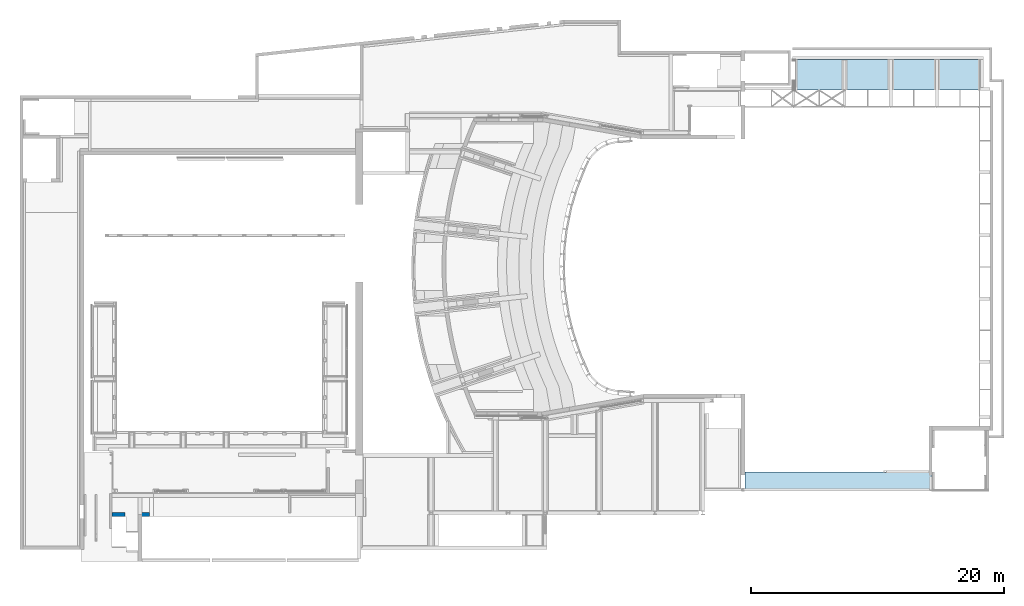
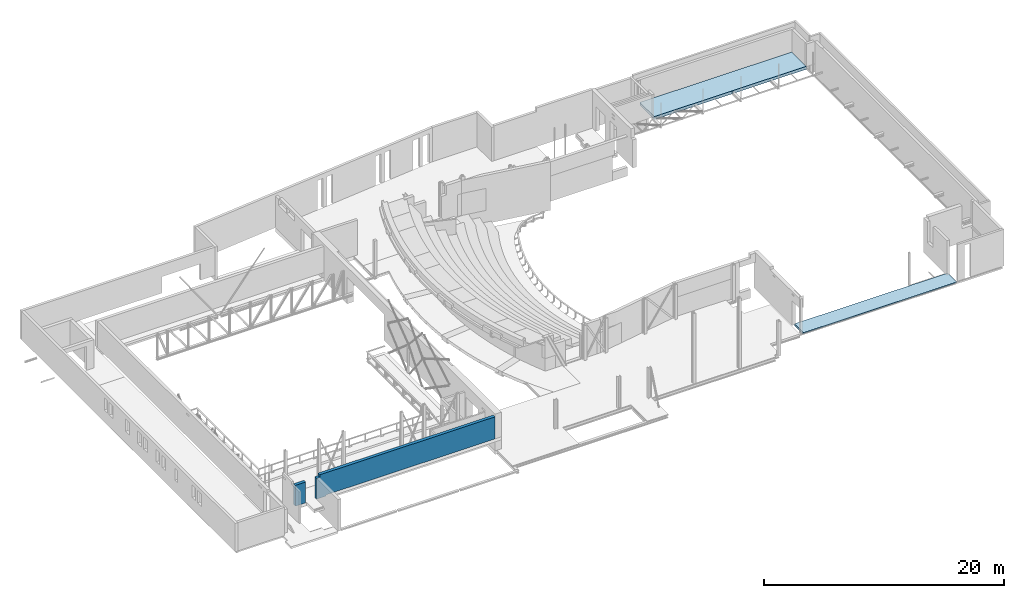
# One storey, part 64 of 68: 2 slabs, 1 wall.
"""IFC2X3 building model written with IfcOpenShell, lengths in millimetres."""

from ifc_helpers import new_model, entity, si_unit, converted_unit, derived_unit, direction, frame, origin, place, context, subcontext, project, spatial, faceted_brep, material, material_list, layer, layer_set, type_object, element, save


model = new_model("IFC2X3")

# Units and contexts
model_context = context("Model", 3, precision=0.01, world=origin(), true_north=direction((6.12303176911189e-17, 1.0)))
body_context = subcontext(model_context, "Body", "Model", "MODEL_VIEW")
ifc_project = project(units=[si_unit("LENGTHUNIT", "METRE", prefix="MILLI"), si_unit("AREAUNIT", "SQUARE_METRE", prefix="MILLI"), si_unit("VOLUMEUNIT", "CUBIC_METRE"), converted_unit("PLANEANGLEUNIT", "DEGREE", entity("IfcRatioMeasure", 0.0174532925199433), si_unit("PLANEANGLEUNIT", "RADIAN"), dimensions=[0, 0, 0, 0, 0, 0, 0]), si_unit("MASSUNIT", "GRAM", prefix="KILO"), derived_unit("MASSDENSITYUNIT", [(si_unit("MASSUNIT", "GRAM", prefix="KILO"), 1), (si_unit("LENGTHUNIT", "METRE"), -3)]), derived_unit("MOMENTOFINERTIAUNIT", [(si_unit("LENGTHUNIT", "METRE"), 4)]), si_unit("TIMEUNIT", "SECOND"), si_unit("FREQUENCYUNIT", "HERTZ"), si_unit("THERMODYNAMICTEMPERATUREUNIT", "DEGREE_CELSIUS"), derived_unit("THERMALTRANSMITTANCEUNIT", [(si_unit("MASSUNIT", "GRAM", prefix="KILO"), 1), (si_unit("THERMODYNAMICTEMPERATUREUNIT", "KELVIN"), -1), (si_unit("TIMEUNIT", "SECOND"), -3)]), derived_unit("VOLUMETRICFLOWRATEUNIT", [(si_unit("LENGTHUNIT", "METRE"), 3), (si_unit("TIMEUNIT", "SECOND"), -1)]), si_unit("ELECTRICCURRENTUNIT", "AMPERE"), si_unit("ELECTRICVOLTAGEUNIT", "VOLT"), si_unit("POWERUNIT", "WATT"), si_unit("FORCEUNIT", "NEWTON", prefix="KILO"), si_unit("ILLUMINANCEUNIT", "LUX"), si_unit("LUMINOUSFLUXUNIT", "LUMEN"), si_unit("LUMINOUSINTENSITYUNIT", "CANDELA"), derived_unit("USERDEFINED", [(si_unit("MASSUNIT", "GRAM", prefix="KILO"), -1), (si_unit("LENGTHUNIT", "METRE"), -2), (si_unit("TIMEUNIT", "SECOND"), 3), (si_unit("LUMINOUSFLUXUNIT", "LUMEN"), 1)]), derived_unit("LINEARVELOCITYUNIT", [(si_unit("LENGTHUNIT", "METRE"), 1), (si_unit("TIMEUNIT", "SECOND"), -1)]), si_unit("PRESSUREUNIT", "PASCAL"), derived_unit("USERDEFINED", [(si_unit("LENGTHUNIT", "METRE"), -2), (si_unit("MASSUNIT", "GRAM", prefix="KILO"), 1), (si_unit("TIMEUNIT", "SECOND"), -2)]), derived_unit("LINEARFORCEUNIT", [(si_unit("MASSUNIT", "GRAM", prefix="KILO"), 1), (si_unit("LENGTHUNIT", "METRE"), 1), (si_unit("TIMEUNIT", "SECOND"), -2), (si_unit("LENGTHUNIT", "METRE"), -1)]), derived_unit("PLANARFORCEUNIT", [(si_unit("MASSUNIT", "GRAM", prefix="KILO"), 1), (si_unit("LENGTHUNIT", "METRE"), 1), (si_unit("TIMEUNIT", "SECOND"), -2), (si_unit("LENGTHUNIT", "METRE"), -2)])], contexts=[model_context])

# Site, building, storey
site_placement = place(None, origin())
site = spatial("IfcSite", under=ifc_project, at=site_placement, Name="Theater aan de Parade", CompositionType="ELEMENT")
building_placement = place(site_placement, origin())
building = spatial("IfcBuilding", under=site, at=building_placement, Name="Theater aan de Parade", CompositionType="ELEMENT")
storey_placement = place(building_placement, frame((0.0, 0.0, 8750.0)))
storey = spatial("IfcBuildingStorey", under=building, at=storey_placement, Name="02 tweede verdieping", CompositionType="ELEMENT", Elevation=8750.0)

# Slabs
ifc_material_1 = material(Name="00_PBT_MAT_beton t.p.g._C30/37")
ifc_material_2 = material(Name="00_PBT_MAT_staal")
ifc_material_list = material_list([ifc_material_1, ifc_material_2])
slab_type_1 = type_object("IfcSlabType", Name="Floor:28_PBT_FL_staalplaatbeton_d=300_C30/37", PredefinedType="FLOOR")
slab_1_placement = place(storey_placement, origin())
element("IfcSlab", 1, at=slab_1_placement, inside=storey, type_object=slab_type_1, material=ifc_material_list, Name="Floor:28_PBT_FL_staalplaatbeton_d=300_C30/37", ObjectType="Floor:28_PBT_FL_staalplaatbeton_d=300_C30/37", PredefinedType="FLOOR", context=body_context, shape_type="Brep", body=[
    faceted_brep([(79081.2707440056, 48822.0, 1010.0), (79101.2707440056, 48822.0, 1010.0), (79101.2707440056, 46411.8723406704, 1010.0), (78976.2707440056, 46411.8723406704, 1010.0), (75816.2707440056, 46411.8723406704, 1010.0), (75691.2707440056, 46411.8723406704, 1010.0), (75691.2707440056, 48807.0, 1010.0), (75451.2707440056, 48807.0, 1010.0), (75451.2707440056, 46411.8723406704, 1010.0), (75326.2707440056, 46411.8723406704, 1010.0), (71657.0, 46411.8723406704, 1010.0), (71657.0, 48822.0, 1010.0), (78976.2707440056, 48822.0, 1010.0), (82751.2707440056, 46411.8723406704, 1010.0), (82626.2707440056, 46411.8723406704, 1010.0), (79466.2707440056, 46411.8723406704, 1010.0), (79341.2707440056, 46411.8723406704, 1010.0), (79341.2707440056, 48822.0, 1010.0), (79361.2707440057, 48822.0, 1010.0), (79466.2707440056, 48822.0, 1010.0), (82626.2707440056, 48822.0, 1010.0), (82731.2707440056, 48822.0, 1010.0), (82751.2707440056, 48822.0, 1010.0), (83116.2707440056, 48822.0, 1010.0), (86305.1683175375, 48822.0, 1010.0), (86305.1683175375, 46411.8723406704, 1010.0), (83116.2707440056, 46411.8723406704, 1010.0), (82991.2707440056, 46411.8723406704, 1010.0), (82991.2707440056, 48822.0, 1010.0), (83011.2707440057, 48822.0, 1010.0), (71657.0, 46611.8723406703, 1310.0), (71657.0, 46411.8723406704, 1310.0), (86305.1683175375, 46411.8723406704, 1310.0), (86305.1683175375, 46611.8723406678, 1310.0), (86305.1683175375, 48822.0, 1310.0), (71657.0, 48822.0, 1310.0), (82875.0207440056, 46411.8723406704, 1043.0), (82876.5584334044, 46411.8723406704, 1039.28768939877), (82878.0961228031, 46411.8723406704, 1035.57537879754), (82879.6338122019, 46411.8723406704, 1031.86306819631), (82881.1715016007, 46411.8723406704, 1028.15075759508), (82885.0908740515, 46411.8723406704, 1026.52730036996), (82889.0102465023, 46411.8723406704, 1024.90384314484), (82892.515495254, 46411.8723406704, 1023.45192157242), (82896.0207440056, 46411.8723406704, 1022.0), (82991.2707440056, 46411.8723406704, 1022.0), (75451.2707440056, 46411.8723406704, 1022.0), (75546.5207440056, 46411.8723406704, 1022.0), (75550.2330546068, 46411.8723406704, 1023.53768939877), (75553.9453652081, 46411.8723406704, 1025.07537879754), (75557.6576758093, 46411.8723406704, 1026.61306819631), (75561.3699864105, 46411.8723406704, 1028.15075759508), (75562.9843506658, 46411.8723406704, 1032.04817767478), (75564.5987149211, 46411.8723406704, 1035.94559775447), (75566.0597294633, 46411.8723406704, 1039.47279887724), (75567.5207440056, 46411.8723406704, 1043.0), (75567.5207440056, 46411.8723406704, 1207.0), (75565.9830546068, 46411.8723406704, 1210.71231060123), (75564.4453652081, 46411.8723406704, 1214.42462120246), (75562.9076758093, 46411.8723406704, 1218.13693180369), (75561.3699864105, 46411.8723406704, 1221.84924240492), (75557.4725663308, 46411.8723406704, 1223.46360666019), (75553.5751462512, 46411.8723406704, 1225.07797091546), (75550.0479451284, 46411.8723406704, 1226.53898545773), (75546.5207440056, 46411.8723406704, 1228.0), (75451.2707440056, 46411.8723406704, 1228.0), (75451.2707440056, 46411.8723406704, 1240.0), (75691.2707440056, 46411.8723406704, 1240.0), (75691.2707440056, 46411.8723406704, 1228.0), (75596.0207440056, 46411.8723406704, 1228.0), (75592.3084334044, 46411.8723406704, 1226.46231060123), (75588.5961228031, 46411.8723406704, 1224.92462120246), (75584.8838122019, 46411.8723406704, 1223.38693180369), (75581.1715016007, 46411.8723406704, 1221.84924240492), (75579.5571373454, 46411.8723406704, 1217.95182232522), (75577.9427730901, 46411.8723406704, 1214.05440224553), (75576.4817585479, 46411.8723406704, 1210.52720112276), (75575.0207440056, 46411.8723406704, 1207.0), (75575.0207440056, 46411.8723406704, 1043.0), (75576.5584334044, 46411.8723406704, 1039.28768939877), (75578.0961228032, 46411.8723406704, 1035.57537879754), (75579.6338122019, 46411.8723406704, 1031.86306819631), (75581.1715016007, 46411.8723406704, 1028.15075759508), (75585.0689216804, 46411.8723406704, 1026.53639333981), (75588.9663417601, 46411.8723406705, 1024.92202908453), (75592.4935428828, 46411.8723406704, 1023.46101454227), (75596.0207440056, 46411.8723406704, 1022.0), (75691.2707440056, 46411.8723406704, 1022.0), (79101.2707440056, 46411.8723406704, 1022.0), (79196.5207440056, 46411.8723406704, 1022.0), (79200.2330546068, 46411.8723406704, 1023.53768939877), (79203.9453652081, 46411.8723406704, 1025.07537879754), (79207.6576758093, 46411.8723406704, 1026.61306819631), (79211.3699864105, 46411.8723406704, 1028.15075759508), (79212.9934436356, 46411.8723406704, 1032.0701300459), (79214.6169008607, 46411.8723406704, 1035.98950249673), (79216.0688224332, 46411.8723406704, 1039.49475124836), (79217.5207440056, 46411.8723406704, 1043.0), (79217.5207440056, 46411.8723406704, 1207.0), (79215.9830546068, 46411.8723406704, 1210.71231060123), (79214.445365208, 46411.8723406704, 1214.42462120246), (79212.9076758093, 46411.8723406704, 1218.13693180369), (79211.3699864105, 46411.8723406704, 1221.84924240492), (79207.4506139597, 46411.8723406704, 1223.47269963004), (79203.5312415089, 46411.8723406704, 1225.09615685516), (79200.0259927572, 46411.8723406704, 1226.54807842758), (79196.5207440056, 46411.8723406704, 1228.0), (79101.2707440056, 46411.8723406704, 1228.0), (79101.2707440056, 46411.8723406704, 1240.0), (79341.2707440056, 46411.8723406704, 1240.0), (79341.2707440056, 46411.8723406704, 1228.0), (79246.0207440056, 46411.8723406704, 1228.0), (79242.3084334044, 46411.8723406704, 1226.46231060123), (79238.5961228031, 46411.8723406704, 1224.92462120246), (79234.8838122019, 46411.8723406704, 1223.38693180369), (79231.1715016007, 46411.8723406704, 1221.84924240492), (79229.6338122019, 46411.8723406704, 1218.13693180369), (79228.0961228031, 46411.8723406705, 1214.42462120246), (79226.5584334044, 46411.8723406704, 1210.71231060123), (79225.0207440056, 46411.8723406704, 1207.0), (79225.0207440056, 46411.8723406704, 1043.0), (79226.5584334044, 46411.8723406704, 1039.28768939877), (79228.0961228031, 46411.8723406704, 1035.57537879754), (79229.6338122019, 46411.8723406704, 1031.86306819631), (79231.1715016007, 46411.8723406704, 1028.15075759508), (79235.0908740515, 46411.8723406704, 1026.52730036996), (79239.0102465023, 46411.8723406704, 1024.90384314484), (79242.5154952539, 46411.8723406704, 1023.45192157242), (79246.0207440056, 46411.8723406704, 1022.0), (79341.2707440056, 46411.8723406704, 1022.0), (82751.2707440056, 46411.8723406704, 1022.0), (82846.5207440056, 46411.8723406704, 1022.0), (82850.2330546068, 46411.8723406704, 1023.53768939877), (82853.9453652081, 46411.8723406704, 1025.07537879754), (82857.6576758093, 46411.8723406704, 1026.61306819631), (82861.3699864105, 46411.8723406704, 1028.15075759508), (82862.9934436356, 46411.8723406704, 1032.0701300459), (82864.6169008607, 46411.8723406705, 1035.98950249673), (82866.0688224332, 46411.8723406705, 1039.49475124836), (82867.5207440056, 46411.8723406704, 1043.0), (82867.5207440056, 46411.8723406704, 1207.0), (82865.9830546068, 46411.8723406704, 1210.71231060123), (82864.445365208, 46411.8723406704, 1214.42462120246), (82862.9076758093, 46411.8723406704, 1218.13693180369), (82861.3699864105, 46411.8723406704, 1221.84924240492), (82857.4506139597, 46411.8723406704, 1223.47269963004), (82853.5312415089, 46411.8723406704, 1225.09615685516), (82850.0259927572, 46411.8723406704, 1226.54807842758), (82846.5207440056, 46411.8723406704, 1228.0), (82751.2707440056, 46411.8723406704, 1228.0), (82751.2707440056, 46411.8723406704, 1240.0), (82991.2707440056, 46411.8723406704, 1240.0), (82991.2707440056, 46411.8723406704, 1228.0), (82896.0207440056, 46411.8723406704, 1228.0), (82892.3084334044, 46411.8723406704, 1226.46231060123), (82888.5961228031, 46411.8723406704, 1224.92462120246), (82884.8838122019, 46411.8723406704, 1223.38693180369), (82881.1715016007, 46411.8723406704, 1221.84924240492), (82879.6338122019, 46411.8723406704, 1218.13693180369), (82878.0961228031, 46411.8723406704, 1214.42462120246), (82876.5584334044, 46411.8723406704, 1210.71231060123), (82875.0207440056, 46411.8723406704, 1207.0), (79341.2707440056, 48822.0, 1022.0), (79246.0207440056, 48822.0, 1022.0), (79242.3084334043, 48822.0, 1023.53768939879), (79238.5961228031, 48822.0, 1025.07537879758), (79234.8838122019, 48822.0, 1026.61306819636), (79231.1715016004, 48822.0, 1028.15075759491), (79229.6338122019, 48822.0, 1031.86306819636), (79228.0961228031, 48822.0, 1035.57537879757), (79226.472665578, 48822.0, 1039.49475124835), (79225.0207440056, 48822.0, 1043.0), (79225.0207440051, 48822.0, 1207.0), (79226.5584334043, 48822.0, 1210.71231060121), (79228.0961228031, 48822.0, 1214.42462120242), (79229.6338122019, 48822.0, 1218.13693180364), (79231.1715016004, 48822.0, 1221.84924240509), (79234.8838122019, 48822.0, 1223.38693180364), (79238.5961228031, 48822.0, 1224.92462120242), (79242.515495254, 48822.0, 1226.54807842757), (79246.0207440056, 48822.0, 1228.0), (79341.2707440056, 48822.0, 1228.0), (79341.2707440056, 48822.0, 1240.0), (79101.2707440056, 48822.0, 1240.0), (79101.2707440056, 48822.0, 1228.0), (79196.5207440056, 48822.0, 1228.0), (79200.2330546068, 48822.0, 1226.46231060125), (79203.945365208, 48822.0, 1224.92462120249), (79207.6576758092, 48822.0, 1223.38693180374), (79211.3699864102, 48822.0, 1221.84924240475), (79212.9076758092, 48822.0, 1218.13693180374), (79214.445365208, 48822.0, 1214.42462120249), (79216.0688224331, 48822.0, 1210.50524875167), (79217.5207440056, 48822.0, 1207.0), (79217.5207440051, 48822.0, 1043.0), (79215.9830546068, 48822.0, 1039.28768939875), (79214.445365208, 48822.0, 1035.5753787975), (79212.9076758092, 48822.0, 1031.86306819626), (79211.3699864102, 48822.0, 1028.15075759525), (79207.6576758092, 48822.0, 1026.61306819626), (79203.945365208, 48822.0, 1025.0753787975), (79200.0259927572, 48822.0, 1023.45192157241), (79196.5207440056, 48822.0, 1022.0), (79101.2707440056, 48822.0, 1022.0), (82991.2707440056, 48822.0, 1022.0), (82896.0207440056, 48822.0, 1022.0), (82892.3084334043, 48822.0, 1023.53768939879), (82888.5961228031, 48822.0, 1025.07537879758), (82884.8838122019, 48822.0, 1026.61306819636), (82881.1715016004, 48822.0, 1028.15075759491), (82879.6338122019, 48822.0, 1031.86306819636), (82878.0961228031, 48822.0, 1035.57537879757), (82876.472665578, 48822.0, 1039.49475124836), (82875.0207440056, 48822.0, 1043.0), (82875.0207440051, 48822.0, 1207.0), (82876.5584334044, 48822.0, 1210.71231060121), (82878.0961228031, 48822.0, 1214.42462120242), (82879.6338122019, 48822.0, 1218.13693180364), (82881.1715016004, 48822.0, 1221.84924240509), (82884.8838122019, 48822.0, 1223.38693180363), (82888.5961228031, 48822.0, 1224.92462120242), (82892.515495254, 48822.0, 1226.54807842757), (82896.0207440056, 48822.0, 1228.0), (82991.2707440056, 48822.0, 1228.0), (82991.2707440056, 48822.0, 1240.0), (82751.2707440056, 48822.0, 1240.0), (82751.2707440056, 48822.0, 1228.0), (82846.5207440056, 48822.0, 1228.0), (82862.9076758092, 48822.0, 1218.13693180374), (82864.445365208, 48822.0, 1214.42462120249), (82866.0688224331, 48822.0, 1210.50524875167), (82867.5207440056, 48822.0, 1207.0), (82867.5207440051, 48822.0, 1043.0), (82857.6576758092, 48822.0, 1026.61306819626), (82853.945365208, 48822.0, 1025.0753787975), (82850.0259927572, 48822.0, 1023.45192157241), (82846.5207440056, 48822.0, 1022.0), (82751.2707440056, 48822.0, 1022.0), (82865.9830546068, 48822.0, 1039.28768939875), (82864.445365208, 48822.0, 1035.5753787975), (82862.9076758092, 48822.0, 1031.86306819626), (82861.3699864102, 48822.0, 1028.15075759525), (82850.2330546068, 48822.0, 1226.46231060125), (82853.945365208, 48822.0, 1224.92462120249), (82857.6576758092, 48822.0, 1223.38693180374), (82861.3699864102, 48822.0, 1221.84924240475), (75546.5207440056, 48807.0, 1022.0), (75451.2707440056, 48807.0, 1022.0), (75691.2707440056, 48807.0, 1022.0), (75596.0207440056, 48807.0, 1022.0), (75592.3084334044, 48807.0, 1023.53768939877), (75588.5961228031, 48807.0, 1025.07537879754), (75584.8838122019, 48807.0, 1026.61306819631), (75581.1715016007, 48807.0, 1028.15075759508), (75579.6338122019, 48807.0, 1031.86306819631), (75578.0961228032, 48807.0, 1035.57537879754), (75576.4817585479, 48807.0, 1039.47279887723), (75575.0207440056, 48807.0, 1043.0), (75575.0207440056, 48807.0, 1207.0), (75576.5584334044, 48807.0, 1210.71231060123), (75578.0961228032, 48807.0, 1214.42462120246), (75579.6338122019, 48807.0, 1218.13693180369), (75581.1715016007, 48807.0, 1221.84924240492), (75584.8838122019, 48807.0, 1223.38693180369), (75588.5961228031, 48807.0, 1224.92462120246), (75592.4935428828, 48807.0, 1226.53898545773), (75596.0207440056, 48807.0, 1228.0), (75691.2707440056, 48807.0, 1228.0), (75691.2707440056, 48807.0, 1240.0), (75451.2707440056, 48807.0, 1240.0), (75451.2707440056, 48807.0, 1228.0), (75546.5207440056, 48807.0, 1228.0), (75550.2330546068, 48807.0, 1226.46231060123), (75553.9453652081, 48807.0, 1224.92462120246), (75557.6576758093, 48807.0, 1223.38693180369), (75561.3699864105, 48807.0, 1221.84924240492), (75562.9076758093, 48807.0, 1218.13693180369), (75564.4453652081, 48807.0, 1214.42462120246), (75566.0597294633, 48807.0, 1210.5272011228), (75567.5207440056, 48807.0, 1207.0), (75567.5207440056, 48807.0, 1043.0), (75565.9830546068, 48807.0, 1039.28768939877), (75564.4453652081, 48807.0, 1035.57537879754), (75562.9076758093, 48807.0, 1031.86306819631), (75561.3699864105, 48807.0, 1028.15075759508), (75557.6576758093, 48807.0, 1026.61306819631), (75553.9453652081, 48807.0, 1025.07537879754), (75550.0479451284, 48807.0, 1023.46101454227)], [[[0, 1, 2, 3, 4, 5, 6, 7, 8, 9, 10, 11, 12]], [[13, 14, 15, 16, 17, 18, 19, 20, 21, 22]], [[23, 24, 25, 26, 27, 28, 29]], [[30, 31, 32, 33, 34, 35]], [[36, 37, 38, 39, 40, 41, 42, 43, 44, 45, 27, 26, 25, 32, 31, 10, 9, 8, 46, 47, 48, 49, 50, 51, 52, 53, 54, 55, 56, 57, 58, 59, 60, 61, 62, 63, 64, 65, 66, 67, 68, 69, 70, 71, 72, 73, 74, 75, 76, 77, 78, 79, 80, 81, 82, 83, 84, 85, 86, 87, 5, 4, 3, 2, 88, 89, 90, 91, 92, 93, 94, 95, 96, 97, 98, 99, 100, 101, 102, 103, 104, 105, 106, 107, 108, 109, 110, 111, 112, 113, 114, 115, 116, 117, 118, 119, 120, 121, 122, 123, 124, 125, 126, 127, 128, 129, 16, 15, 14, 13, 130, 131, 132, 133, 134, 135, 136, 137, 138, 139, 140, 141, 142, 143, 144, 145, 146, 147, 148, 149, 150, 151, 152, 153, 154, 155, 156, 157, 158, 159, 160, 161]], [[11, 10, 31, 30, 35]], [[162, 163, 164, 165, 166, 167, 168, 169, 170, 171, 172, 173, 174, 175, 176, 177, 178, 179, 180, 181, 182, 183, 184, 185, 186, 187, 188, 189, 190, 191, 192, 193, 194, 195, 196, 197, 198, 199, 200, 201, 202, 203, 1, 0, 12, 11, 35, 34, 24, 23, 29, 28, 204, 205, 206, 207, 208, 209, 210, 211, 212, 213, 214, 215, 216, 217, 218, 219, 220, 221, 222, 223, 224, 225, 226, 227, 228, 229, 230, 231, 232, 233, 234, 235, 236, 237, 22, 21, 20, 19, 18, 17]], [[233, 238, 239, 240, 241]], [[228, 242, 243, 244, 245]], [[233, 232, 238]], [[228, 227, 242]], [[25, 24, 34, 33, 32]], [[246, 247, 7, 6, 248, 249, 250, 251, 252, 253, 254, 255, 256, 257, 258, 259, 260, 261, 262, 263, 264, 265, 266, 267, 268, 269, 270, 271, 272, 273, 274, 275, 276, 277, 278, 279, 280, 281, 282, 283, 284, 285, 286, 287]], [[270, 269, 66, 65]], [[7, 247, 46, 8]], [[271, 270, 65, 64]], [[267, 266, 69, 68]], [[184, 107, 106, 185]], [[180, 111, 110, 181]], [[226, 149, 148, 227]], [[222, 153, 152, 223]], [[274, 273, 272, 271, 64, 63, 62, 61, 60, 275]], [[59, 58, 57, 56, 279, 278, 277, 276, 275, 60]], [[280, 279, 56, 55]], [[283, 282, 281, 280, 55, 54, 53, 52, 51, 284]], [[50, 49, 48, 47, 246, 287, 286, 285, 284, 51]], [[247, 246, 47, 46]], [[249, 248, 87, 86]], [[202, 89, 88, 203]], [[162, 129, 128, 163]], [[236, 131, 130, 237]], [[204, 45, 44, 205]], [[248, 6, 5, 87]], [[268, 267, 68, 67]], [[252, 251, 250, 249, 86, 85, 84, 83, 82, 253]], [[81, 80, 79, 78, 257, 256, 255, 254, 253, 82]], [[258, 257, 78, 77]], [[261, 260, 259, 258, 77, 76, 75, 74, 73, 262]], [[72, 71, 70, 69, 266, 265, 264, 263, 262, 73]], [[269, 268, 67, 66]], [[182, 109, 108, 183]], [[224, 151, 150, 225]], [[183, 108, 107, 184]], [[203, 88, 2, 1]], [[188, 187, 186, 185, 106, 105, 104, 103, 102, 189]], [[101, 100, 99, 98, 193, 192, 191, 190, 189, 102]], [[193, 98, 97, 194]], [[197, 196, 195, 194, 97, 96, 95, 94, 93, 198]], [[92, 91, 90, 89, 202, 201, 200, 199, 198, 93]], [[17, 16, 129, 162]], [[181, 110, 109, 182]], [[166, 165, 164, 163, 128, 127, 126, 125, 124, 167]], [[123, 122, 121, 120, 171, 170, 169, 168, 167, 124]], [[171, 120, 119, 172]], [[117, 116, 115, 176, 175, 174, 173, 172, 119, 118]], [[176, 115, 114, 113, 112, 111, 180, 179, 178, 177]], [[225, 150, 149, 226]], [[237, 130, 13, 22]], [[244, 243, 242, 227, 148, 147, 146, 145, 144, 245]], [[143, 142, 141, 140, 231, 230, 229, 228, 245, 144]], [[231, 140, 139, 232]], [[240, 239, 238, 232, 139, 138, 137, 136, 135, 241]], [[134, 133, 132, 131, 236, 235, 234, 233, 241, 135]], [[28, 27, 45, 204]], [[223, 152, 151, 224]], [[208, 207, 206, 205, 44, 43, 42, 41, 40, 209]], [[39, 38, 37, 36, 213, 212, 211, 210, 209, 40]], [[213, 36, 161, 214]], [[159, 158, 157, 218, 217, 216, 215, 214, 161, 160]], [[218, 157, 156, 155, 154, 153, 222, 221, 220, 219]]]),
])
slab_type_2 = type_object("IfcSlabType", Name="Floor:28_PBT_FL_beton t.p.g._d=200_C30/37", PredefinedType="FLOOR")
slab_2_placement = place(storey_placement, origin())
element("IfcSlab", 2, at=slab_2_placement, inside=storey, type_object=slab_type_2, material=ifc_material_1, Name="Floor:28_PBT_FL_beton t.p.g._d=200_C30/37", ObjectType="Floor:28_PBT_FL_beton t.p.g._d=200_C30/37", PredefinedType="FLOOR", context=body_context, shape_type="Brep", body=[
    faceted_brep([(82250.008421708, 16197.0, -280.0), (78898.8589693, 16197.0, -280.0), (78898.8589693, 16197.0, -80.0), (82250.008421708, 16197.0, -80.0), (82500.0084217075, 16197.0, -80.0), (82500.0084217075, 16197.0, -90.0), (82500.0084217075, 16197.0, -280.0), (67828.9561009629, 16197.0, -280.0), (67706.2561009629, 16197.0, -280.0), (67706.2561009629, 16197.0, -80.0), (67828.9561009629, 16197.0, -80.0), (82500.0084217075, 15809.9960954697, -280.0), (82475.008421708, 15809.9960954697, -280.0), (82275.008421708, 15809.9960954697, -280.0), (82275.008421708, 14880.0, -280.0), (67706.2561009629, 14880.0, -280.0), (67828.9561009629, 16190.8248931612, -280.0), (78898.8589693, 16190.8248931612, -280.0), (67706.2561009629, 15960.1386817, -80.0), (67706.2561009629, 14680.0, -80.0), (82475.008421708, 14680.0, -80.0), (82475.008421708, 15809.9960954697, -80.0), (82500.0084217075, 15809.9960954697, -80.0), (82500.0084217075, 15925.0, -80.0), (78898.8589693, 16191.499999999, -80.0), (67828.9561009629, 16191.499999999, -80.0), (67706.2561009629, 14680.0, -90.0), (82475.008421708, 14680.0, -90.0), (67706.2561009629, 14786.7856815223, -260.535890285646), (67706.2561009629, 14785.0178407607, -256.267945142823), (67706.2561009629, 14783.2499999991, -252.0), (67706.2561009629, 14783.2499999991, -118.0), (67706.2561009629, 14785.0178407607, -113.732054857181), (67706.2561009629, 14785.8860389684, -111.636038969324), (67706.2561009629, 14787.204058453, -108.454058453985), (67706.2561009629, 14788.5220779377, -105.272077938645), (67706.2561009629, 14792.7141097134, -103.535681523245), (67706.2561009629, 14796.9820548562, -101.767840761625), (67706.2561009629, 14801.2499999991, -100.0), (67706.2561009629, 14880.0, -100.0), (67706.2561009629, 14880.0, -90.0), (67706.2561009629, 14880.0, -270.0), (67706.2561009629, 14801.2499999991, -270.0), (67706.2561009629, 14796.9820548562, -268.232159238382), (67706.2561009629, 14794.8860389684, -267.363961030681), (67706.2561009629, 14791.7040584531, -266.045941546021), (67706.2561009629, 14788.5220779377, -264.72792206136), (82275.008421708, 14880.0, -270.0), (82275.008421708, 14880.0, -100.0), (82275.008421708, 14880.0, -90.0), (82275.008421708, 15809.9960954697, -270.0), (82353.758421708, 15809.9960954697, -270.0), (82353.758421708, 14801.249999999, -270.0), (77187.7576032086, 14801.249999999, -270.0), (72445.5750336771, 14801.2499999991, -270.0), (78242.2574527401, 14797.2443132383, -269.548631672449), (82357.0230710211, 14797.9853506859, -268.597105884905), (82357.9952120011, 14797.0132097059, -268.179354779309), (82360.2877203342, 14794.7207013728, -267.194211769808), (82362.2320022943, 14792.7764194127, -266.358709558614), (77613.955861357, 14790.0798631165, -266.114816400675), (72491.3055886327, 14790.6184414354, -266.524805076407), (75420.8958750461, 14794.3170458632, -268.611265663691), (74410.9978125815, 14797.910401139, -269.687483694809), (73370.2559016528, 14786.9867672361, -262.979990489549), (77335.2915475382, 14787.2567566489, -263.322064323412), (76415.5478072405, 14785.1582733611, -260.065750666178), (82363.5523696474, 14791.4560520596, -265.79131765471), (82366.8170189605, 14788.1914027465, -264.388423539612), (71990.9649616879, 14784.6363476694, -258.927232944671), (71609.8068671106, 14783.5796536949, -255.429119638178), (75261.0156752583, 14783.6734844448, -255.881507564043), (72890.768093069, 14783.2499999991, -252.0), (77631.2632573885, 14783.249999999, -252.0), (82370.0439882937, 14784.9644334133, -256.298197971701), (82370.4469877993, 14784.5614339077, -255.287851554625), (82371.758421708, 14783.249999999, -252.0), (82368.0523696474, 14786.9560520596, -261.291317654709), (82369.1355538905, 14785.8728678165, -258.575703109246), (82369.2877203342, 14785.7207013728, -258.194211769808), (82367.9762864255, 14787.0321352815, -261.48206332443), (82371.758421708, 14783.249999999, -118.0), (77187.2464296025, 14783.249999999, -118.0), (72446.7512652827, 14783.2499999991, -118.0), (72383.4748467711, 14786.2835469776, -107.999735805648), (76380.1870348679, 14791.0489282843, -103.169688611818), (72373.8048669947, 14790.2700095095, -103.736767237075), (77751.0322723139, 14788.1088984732, -105.699128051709), (72872.7680931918, 14801.2499999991, -100.0), (75646.9670616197, 14797.9144601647, -100.311750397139), (77613.2632574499, 14801.249999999, -100.0), (71818.5013730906, 14797.2471064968, -100.450730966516), (82358.802753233, 14796.205668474, -101.54649616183), (82357.1743730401, 14797.8340486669, -101.047265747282), (82353.758421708, 14801.249999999, -100.0), (74639.1186471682, 14794.3227670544, -101.38634767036), (82369.7805874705, 14785.2278342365, -114.273248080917), (74816.9988474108, 14784.0292403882, -112.761160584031), (82365.8249189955, 14789.1835027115, -106.819744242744), (82363.847084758, 14791.161336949, -103.092992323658), (82367.802753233, 14787.205668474, -110.546496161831), (76571.3792789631, 14785.6128183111, -109.084925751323), (82360.5903243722, 14794.4180973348, -102.094531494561), (82353.758421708, 15809.9960954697, -100.0), (82275.008421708, 15809.9960954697, -100.0), (82275.008421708, 15809.9960954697, -90.0), (82475.008421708, 15809.9960954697, -90.0), (82475.008421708, 14880.0, -90.0), (82475.008421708, 14780.0, -90.0), (78898.8589693, 16191.329286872, -277.031396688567), (78898.8589693, 16191.499999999, -274.0), (67828.9561009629, 16191.3292868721, -277.031396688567), (67828.9561009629, 16191.499999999, -274.0), (82366.4863437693, 15809.9960954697, -264.72792206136), (82360.2878573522, 15809.9960954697, -267.295419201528), (82363.3871005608, 15809.9960954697, -266.011670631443), (82357.0231395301, 15809.9960954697, -268.647709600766), (82367.804363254, 15809.9960954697, -261.54594154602), (82369.1223827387, 15809.9960954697, -258.363961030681), (82371.758421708, 15809.9960954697, -252.0), (82370.4061313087, 15809.9960954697, -255.264717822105), (82371.758421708, 15809.9960954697, -118.0), (82369.1223827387, 15809.9960954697, -111.636038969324), (82366.4863437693, 15809.9960954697, -105.272077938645), (82363.304363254, 15809.9960954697, -103.954058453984), (82357.0231395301, 15809.9960954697, -101.352290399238), (82367.804363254, 15809.9960954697, -108.454058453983), (82360.1223827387, 15809.9960954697, -102.636038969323), (82370.4404022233, 15809.9960954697, -114.818019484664)], [[[0, 1, 2, 3, 4, 5, 6]], [[7, 8, 9, 10]], [[0, 6, 11, 12, 13, 14, 15, 8, 7, 16, 17, 1]], [[18, 19, 20, 21, 22, 23, 4, 3, 2, 24, 25, 10, 9]], [[26, 27, 20, 19]], [[28, 29, 30, 31, 32, 33, 34, 35, 36, 37, 38, 39, 40, 26, 19, 18, 9, 8, 15, 41, 42, 43, 44, 45, 46]], [[23, 22, 11, 6, 5, 4]], [[41, 15, 14, 47]], [[40, 39, 48, 49]], [[42, 41, 47, 50, 51, 52, 53, 54]], [[55, 52, 56, 57, 58, 59]], [[60, 61, 62]], [[53, 63, 54]], [[52, 55, 53]], [[46, 64, 28]], [[65, 66, 64]], [[59, 60, 62]], [[60, 59, 67, 68]], [[62, 61, 44]], [[64, 69, 28]], [[62, 44, 63]], [[70, 69, 71]], [[70, 71, 72]], [[70, 72, 30]], [[64, 60, 65]], [[72, 71, 73]], [[28, 69, 29]], [[74, 73, 71]], [[45, 44, 61, 46]], [[61, 60, 64]], [[61, 64, 46]], [[66, 71, 69]], [[73, 74, 75, 76]], [[64, 66, 69]], [[74, 71, 66]], [[65, 77, 66]], [[66, 77, 78, 79, 74]], [[65, 60, 68]], [[70, 29, 69]], [[29, 70, 30]], [[43, 42, 54]], [[62, 55, 59]], [[62, 63, 55]], [[55, 63, 53]], [[63, 43, 54]], [[44, 43, 63]], [[65, 68, 80, 77]], [[30, 72, 73, 76, 81, 82, 83, 31]], [[34, 33, 84, 35]], [[85, 86, 87]], [[84, 86, 35]], [[88, 89, 90]], [[91, 38, 37, 36]], [[90, 92, 93, 94]], [[36, 86, 95]], [[35, 86, 36]], [[38, 91, 88]], [[86, 84, 87]], [[82, 96, 97]], [[97, 33, 32]], [[32, 83, 97]], [[86, 85, 95]], [[89, 95, 92]], [[98, 99, 87, 100]], [[97, 101, 84]], [[82, 97, 83]], [[87, 84, 101]], [[101, 96, 100]], [[32, 31, 83]], [[97, 84, 33]], [[95, 91, 36]], [[95, 89, 91]], [[91, 89, 88]], [[85, 99, 102, 92]], [[90, 89, 92]], [[95, 85, 92]], [[85, 87, 99]], [[101, 100, 87]], [[96, 82, 81]], [[97, 96, 101]], [[38, 88, 90, 94, 103, 104, 48, 39]], [[49, 105, 106, 107, 108, 27, 26, 40]], [[1, 17, 109, 110, 24, 2]], [[111, 16, 7, 10, 25, 112]], [[112, 25, 24, 110]], [[110, 109, 111, 112]], [[111, 109, 17, 16]], [[47, 14, 13, 50]], [[49, 48, 104, 105]], [[113, 68, 67]], [[114, 58, 57, 56]], [[115, 113, 67]], [[51, 116, 52]], [[68, 113, 117]], [[118, 75, 74, 79, 78]], [[80, 68, 117, 78, 77]], [[75, 119, 76]], [[58, 114, 115]], [[56, 52, 116]], [[114, 56, 116]], [[115, 67, 59, 58]], [[75, 118, 120, 119]], [[118, 78, 117]], [[81, 76, 119, 121]], [[96, 122, 100]], [[123, 124, 99]], [[125, 103, 94]], [[100, 126, 98]], [[99, 124, 102]], [[102, 124, 127]], [[127, 93, 92, 102]], [[128, 96, 81]], [[125, 94, 93]], [[121, 128, 81]], [[123, 99, 98]], [[125, 93, 127]], [[128, 122, 96]], [[123, 98, 126]], [[100, 122, 126]], [[12, 11, 22, 21, 106, 105, 104, 103, 125, 127, 124, 123, 126, 122, 128, 121, 119, 120, 118, 117, 113, 115, 114, 116, 51, 50, 13]], [[27, 108, 107, 106, 21, 20]]]),
])

# Wall
ifc_layer = layer(ifc_material_1, 300.0)
ifc_layer_set = layer_set([ifc_layer], Name="Basic Wall:28_PBT_WA_beton t.p.g._d=300_C30/37")
wall_type = type_object("IfcWallType", Name="Basic Wall:28_PBT_WA_beton t.p.g._d=300_C30/37", PredefinedType="STANDARD", material=ifc_layer_set)
wall_placement = place(storey_placement, frame((36853.8581300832, 12819.2267697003, 1017.0), z_axis=(0.0, 0.0, 1.0), x_axis=(-1.0, 0.0, 0.0)))
element("IfcWall", 3, at=wall_placement, inside=storey, type_object=wall_type, Name="Basic Wall:28_PBT_WA_beton t.p.g._d=300_C30/37", ObjectType="Basic Wall:28_PBT_WA_beton t.p.g._d=300_C30/37", context=body_context, shape_type="Brep", body=[
    faceted_brep([(0.0, -150.0, 2373.0), (0.0, -150.0, 118.0), (5126.00756228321, -150.0, 118.0), (5270.00756228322, -150.0, 118.0), (16300.0011275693, -150.0, 118.0), (16300.0011275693, -150.0, 0.0), (17200.0011275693, -150.0, 0.0), (17200.0011275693, -150.0, 2113.0), (16900.0011275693, -150.0, 2113.0), (16900.0011275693, -150.0, 2373.0), (0.0, 150.0, 2373.0), (16900.0011275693, 150.0, 2373.0), (0.0, 150.0, 2113.0), (0.0, 150.0, 118.0), (17200.0011275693, 150.0, 0.0), (17200.0011275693, 150.0, 2113.0), (16900.0011275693, 150.0, 2113.0), (16300.0011275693, 150.0, 118.0), (16300.0011275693, 150.0, 0.0)], [[[0, 1, 2, 3, 4, 5, 6, 7, 8, 9]], [[10, 0, 9, 11]], [[1, 0, 10, 12, 13]], [[7, 6, 14, 15]], [[16, 8, 7, 15]], [[8, 16, 11, 9]], [[5, 4, 17, 18]], [[4, 3, 2, 1, 13, 17]], [[5, 18, 14, 6]], [[15, 14, 18, 17, 13, 12, 10, 11, 16]]]),
    faceted_brep([(18254.0011275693, 150.0, 0.0), (18254.0011275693, 150.0, 2113.0), (19250.0011275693, 150.0, 2113.0), (19250.0011275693, 150.0, 0.0), (18254.0011275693, -150.0, 0.0), (18254.0011275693, -150.0, 2113.0), (19250.0011275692, -150.0, 0.0), (19250.0011275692, -150.0, 2113.0)], [[[0, 1, 2, 3]], [[4, 5, 1, 0]], [[6, 3, 2, 7]], [[6, 4, 0, 3]], [[5, 7, 2, 1]], [[5, 4, 6, 7]]]),
])

save(model, "model.ifc")
